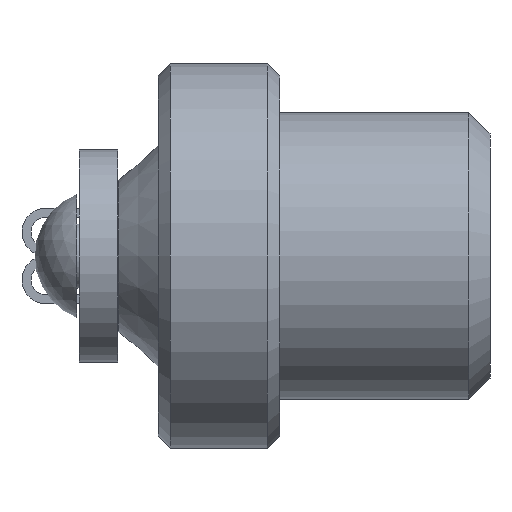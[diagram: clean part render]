
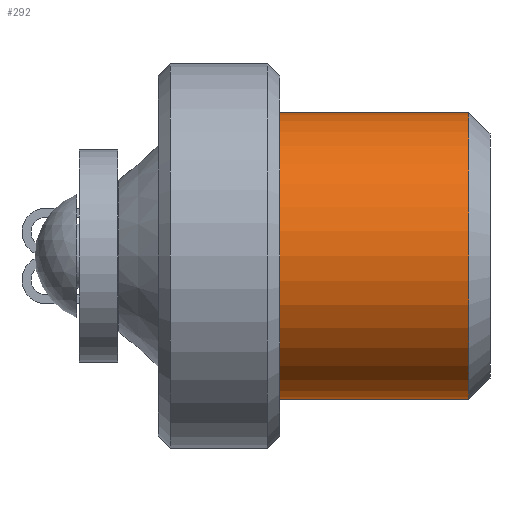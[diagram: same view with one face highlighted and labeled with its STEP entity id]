
A CAD part, left-side view. The second image highlights one B-rep face of the part: STEP entity #292.
In plain terms, the highlighted cylindrical face has radius 6.002 mm (diameter 12.004 mm), a full revolution.
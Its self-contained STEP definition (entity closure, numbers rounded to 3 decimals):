
#261=CARTESIAN_POINT('',(-6.002,-0.298,0.0));
#262=VERTEX_POINT('',#261);
#263=CARTESIAN_POINT('',(0.0,-0.298,0.0));
#264=DIRECTION('',(0.0,1.0,0.0));
#265=DIRECTION('',(-1.0,0.0,0.0));
#266=AXIS2_PLACEMENT_3D('',#263,#264,#265);
#267=CIRCLE('',#266,6.002);
#268=EDGE_CURVE('',#262,#262,#267,.T.);
#273=CARTESIAN_POINT('',(0.0,-4.255,0.0));
#274=DIRECTION('',(0.0,1.0,0.0));
#275=DIRECTION('',(-1.0,0.0,0.0));
#276=AXIS2_PLACEMENT_3D('',#273,#274,#275);
#277=CYLINDRICAL_SURFACE('',#276,6.002);
#278=ORIENTED_EDGE('',*,*,#268,.F.);
#279=EDGE_LOOP('',(#278));
#280=FACE_OUTER_BOUND('',#279,.T.);
#281=CARTESIAN_POINT('',(-6.002,-8.213,0.0));
#282=VERTEX_POINT('',#281);
#283=CARTESIAN_POINT('',(0.0,-8.213,0.0));
#284=DIRECTION('',(0.0,1.0,0.0));
#285=DIRECTION('',(-1.0,0.0,0.0));
#286=AXIS2_PLACEMENT_3D('',#283,#284,#285);
#287=CIRCLE('',#286,6.002);
#288=EDGE_CURVE('',#282,#282,#287,.T.);
#289=ORIENTED_EDGE('',*,*,#288,.T.);
#290=EDGE_LOOP('',(#289));
#291=FACE_BOUND('',#290,.T.);
#292=ADVANCED_FACE('',(#280,#291),#277,.T.);
